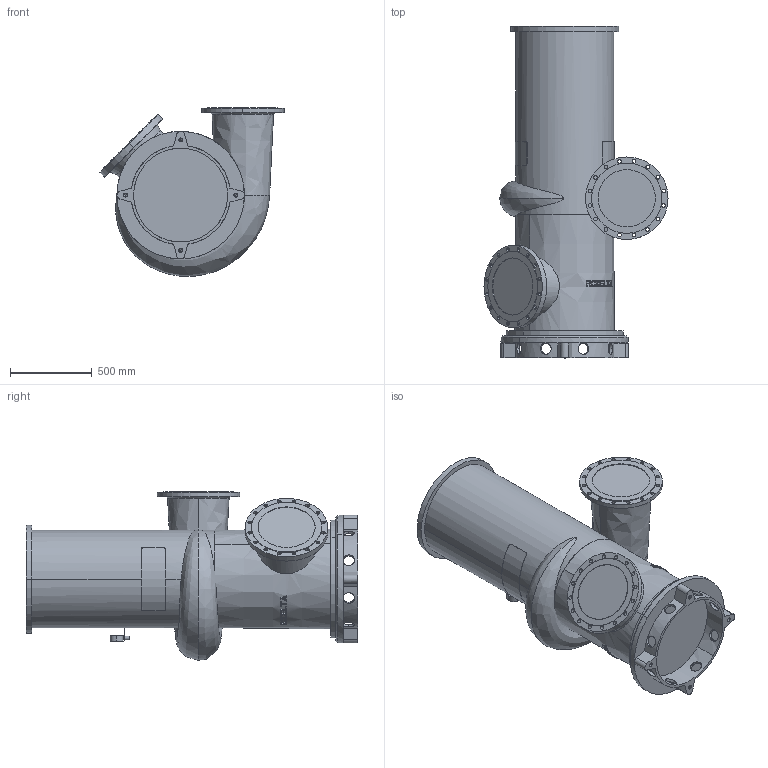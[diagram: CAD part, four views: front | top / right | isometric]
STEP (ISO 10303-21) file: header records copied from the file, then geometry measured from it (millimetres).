
FILE_DESCRIPTION((''),'2;1');
FILE_NAME('14-408_BLAD_ASM','2024-08-07T',('Lyritlocal'),(''),'PRO/ENGINEER BY PARAMETRIC TECHNOLOGY CORPORATION, 2016360','PRO/ENGINEER BY PARAMETRIC TECHNOLOGY CORPORATION, 2016360','');
FILE_SCHEMA(('CONFIG_CONTROL_DESIGN'));
Length unit declared in the file: millimetre
Products named in the file (3): 14-408; 14-408_VOET; 14-408_BLAD_ASM
Assembly tree (2 placements, depth 2):
  14-408_BLAD_ASM
    14-408
    14-408_VOET
Bounding box: 1126.41 x 2030 x 1032.17 mm (x, y, z)
Volume: 689139970.2 mm3; surface area: 7600964.2 mm2
Topology: 2 solids, 6 shells, 519 faces, 1412 edges, 930 vertices
Faces by surface type: plane 323, cylinder 154, cone 36, bspline 6
Entity records: 18592 total; most frequent: CARTESIAN_POINT 5752, ORIENTED_EDGE 2792, DIRECTION 2423, EDGE_CURVE 1404, AXIS2_PLACEMENT_3D 943, VERTEX_POINT 930, EDGE_LOOP 640, VECTOR 537
